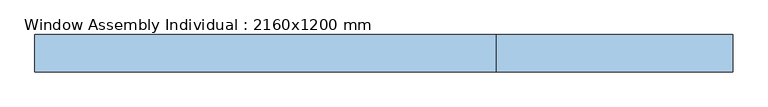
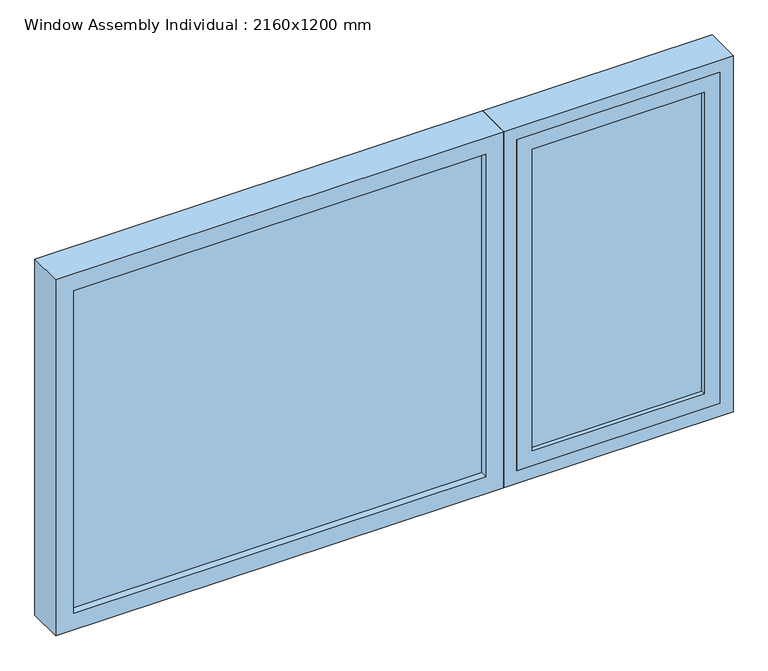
"""IFC4 building model written with IfcOpenShell, lengths in millimetres: window geometry, Window Assembly Individual : 2160x1200 mm."""

import ifcopenshell
import ifcopenshell.guid

model = None  # the IFC model being written
_history = None  # IfcOwnerHistory: only IFC2X3 demands one
_inside = {}  # id of a spatial element -> (the spatial element, [elements in it])
_under = {}  # id of a project, library or spatial element -> (it, [spatial elements below it])
_declared = {}  # id of a project -> (the project, [libraries it declares])
_typed = {}  # id of a type object -> (the type object, [elements of that type])
_made_of = {}  # id of a material, layer set ... -> (it, [elements and type objects made of it])


def new_model(schema):
    """Start an empty IFC model of exactly this schema.

    Asked for "IFC4X3", IfcOpenShell would pick the latest addendum, in which some entities
    have other attributes; the version numbers below select the first issue.
    IFC2X3 requires an IfcOwnerHistory on every rooted entity: one is made here for all.
    """
    global model, _history
    if schema == "IFC4X3":
        model = ifcopenshell.file(schema_version=(4, 3, 0, 0))
    else:
        model = ifcopenshell.file(schema=schema)
    _inside.clear()
    _under.clear()
    _declared.clear()
    _typed.clear()
    _made_of.clear()
    _history = None
    if model.schema == "IFC2X3":
        org = make("IfcOrganization", Name="unknown")
        user = make(
            "IfcPersonAndOrganization",
            ThePerson=make("IfcPerson", FamilyName="unknown"),
            TheOrganization=org,
        )
        app = make(
            "IfcApplication",
            ApplicationDeveloper=org,
            Version="unknown",
            ApplicationFullName="unknown",
            ApplicationIdentifier="unknown",
        )
        _history = make(
            "IfcOwnerHistory",
            OwningUser=user,
            OwningApplication=app,
            ChangeAction="ADDED",
            CreationDate=0,
        )
    return model


def make(cls, **values):
    """One entity of the class cls with the attributes given. An attribute that is None is left unset."""
    return model.create_entity(
        cls, **{name: value for name, value in values.items() if value is not None}
    )


def rooted(cls, **values):
    """An entity with a GlobalId (a new one), such as an element, a storey or a relation."""
    return make(cls, GlobalId=ifcopenshell.guid.new(), OwnerHistory=_history, **values)


def si_unit(unit_type, name, prefix=None):
    """IfcSIUnit, for example si_unit("LENGTHUNIT", "METRE", prefix="MILLI")."""
    return make("IfcSIUnit", UnitType=unit_type, Prefix=prefix, Name=name)


def assignment(units):
    """IfcUnitAssignment: the units of a project."""
    return None if units is None else make("IfcUnitAssignment", Units=units)


def point(xyz):
    """IfcCartesianPoint."""
    return None if xyz is None else make("IfcCartesianPoint", Coordinates=xyz)


def direction(xyz):
    """IfcDirection."""
    return None if xyz is None else make("IfcDirection", DirectionRatios=xyz)


def frame(location, z_axis=None, x_axis=None):
    """IfcAxis2Placement3D, a coordinate frame: its origin and axes. An axis left out is left unset."""
    return make(
        "IfcAxis2Placement3D",
        Location=point(location),
        Axis=direction(z_axis),
        RefDirection=direction(x_axis),
    )


def origin():
    """The frame at (0, 0, 0) with its axes left unset."""
    return frame((0.0, 0.0, 0.0))


def place(relative_to, where):
    """IfcLocalPlacement: puts the frame where relative to a parent placement (None: the world)."""
    return make(
        "IfcLocalPlacement", PlacementRelTo=relative_to, RelativePlacement=where
    )


def context(
    kind, dimensions, precision=None, world=None, true_north=None, identifier=None
):
    """IfcGeometricRepresentationContext, for example the 3D "Model" context."""
    return make(
        "IfcGeometricRepresentationContext",
        ContextIdentifier=identifier,
        ContextType=kind,
        CoordinateSpaceDimension=dimensions,
        Precision=precision,
        WorldCoordinateSystem=world,
        TrueNorth=true_north,
    )


def project(units=None, contexts=None):
    """IfcProject with its units and contexts."""
    return rooted(
        "IfcProject",
        Name="project",
        RepresentationContexts=contexts,
        UnitsInContext=assignment(units),
    )


def spatial(cls, under=None, at=None, **own):
    """A site, building, storey or space (cls), placed at a placement, below another one or the project."""
    s = rooted(cls, ObjectPlacement=at, **own)
    if under is not None:
        _under.setdefault(under.id(), (under, []))[1].append(s)
    return s


def polyline(points):
    """IfcPolyline through the points."""
    return make("IfcPolyline", Points=[point(p) for p in points])


def outline(outer, holes=None, kind="AREA"):
    """IfcArbitraryClosedProfileDef: a profile drawn as a closed curve; with holes, ...WithVoids."""
    if holes is None:
        return make("IfcArbitraryClosedProfileDef", ProfileType=kind, OuterCurve=outer)
    return make(
        "IfcArbitraryProfileDefWithVoids",
        ProfileType=kind,
        OuterCurve=outer,
        InnerCurves=holes,
    )


def extrude(swept, where, along, depth):
    """IfcExtrudedAreaSolid: the profile swept, set in the frame where, extruded along a direction by depth."""
    return make(
        "IfcExtrudedAreaSolid",
        SweptArea=swept,
        Position=where,
        ExtrudedDirection=direction(along),
        Depth=depth,
    )


def faces_of(points, faces, orient=None, outer=None):
    """IfcFace entities. A face is a list of loops; a loop is a list of indices into points, from 0.

    orient and outer hold one flag for each loop. By default every Orientation is true, the
    first loop of a face is its IfcFaceOuterBound and the others are IfcFaceBound.
    """
    made = []
    for i, loops in enumerate(faces):
        bounds = []
        for j, loop in enumerate(loops):
            is_outer = j == 0 if outer is None else outer[i][j]
            bounds.append(
                make(
                    "IfcFaceOuterBound" if is_outer else "IfcFaceBound",
                    Bound=make("IfcPolyLoop", Polygon=[points[k] for k in loop]),
                    Orientation=True if orient is None else orient[i][j],
                )
            )
        made.append(make("IfcFace", Bounds=bounds))
    return made


def faceted_brep(points, faces, orient=None, outer=None, voids=None):
    """IfcFacetedBrep: a solid bounded by flat faces; with voids (closed shells), ...WithVoids."""
    shared = [point(p) for p in points]
    hull = make("IfcClosedShell", CfsFaces=faces_of(shared, faces, orient, outer))
    if voids is None:
        return make("IfcFacetedBrep", Outer=hull)
    return make(
        "IfcFacetedBrepWithVoids",
        Outer=hull,
        Voids=[
            make(cls, CfsFaces=faces_of(shared, fs, o, b)) for cls, fs, o, b in voids
        ],
    )


def shape(context_of_items, identifier, shape_type, items):
    """IfcShapeRepresentation: the items that make up one representation, for example the "Body"."""
    return make(
        "IfcShapeRepresentation",
        ContextOfItems=context_of_items,
        RepresentationIdentifier=identifier,
        RepresentationType=shape_type,
        Items=items,
    )


def source(mapping_origin, context_of_items, identifier, shape_type, items):
    """IfcRepresentationMap: a shape defined once, which mapped items show again and again."""
    return make(
        "IfcRepresentationMap",
        MappingOrigin=mapping_origin,
        MappedRepresentation=shape(context_of_items, identifier, shape_type, items),
    )


def transform(
    local_origin,
    x_axis=None,
    y_axis=None,
    z_axis=None,
    scale=None,
    scale2=None,
    scale3=None,
    uniform=True,
):
    """IfcCartesianTransformationOperator3D, or its non-uniform kind. x_axis, y_axis, z_axis: its Axis1, 2, 3."""
    if uniform:
        return make(
            "IfcCartesianTransformationOperator3D",
            Axis1=direction(x_axis),
            Axis2=direction(y_axis),
            LocalOrigin=point(local_origin),
            Scale=scale,
            Axis3=direction(z_axis),
        )
    return make(
        "IfcCartesianTransformationOperator3DnonUniform",
        Axis1=direction(x_axis),
        Axis2=direction(y_axis),
        LocalOrigin=point(local_origin),
        Scale=scale,
        Axis3=direction(z_axis),
        Scale2=scale2,
        Scale3=scale3,
    )


def mapped(mapping_source, mapping_target):
    """IfcMappedItem: shows the shape of a source again, moved by a transform."""
    return make(
        "IfcMappedItem", MappingSource=mapping_source, MappingTarget=mapping_target
    )


def made_of(thing, what):
    """Note that an element or type object is made of a material, layer set ...; save() writes the relation."""
    if what is not None:
        _made_of.setdefault(what.id(), (what, []))[1].append(thing)
    return thing


def element(
    cls,
    number,
    at=None,
    inside=None,
    cuts=None,
    type_object=None,
    material=None,
    context=None,
    identifier="Body",
    shape_type=None,
    held_by="IfcProductDefinitionShape",
    body=None,
    shapes=None,
    **own,
):
    """One element of the class cls, such as IfcWall. Its Tag is "e" and its number.

    at: its placement. inside: the storey or other place that contains it. cuts: it is an
    opening in that element (IfcRelVoidsElement). A single representation is given by context,
    identifier, shape_type and body (its items); several are given by shapes. held_by: the class
    of the entity that holds the representations. save() writes the other relations.
    """
    e = rooted(cls, Tag="e%d" % number, ObjectPlacement=at, **own)
    if body is not None:
        shapes = [shape(context, identifier, shape_type, body)]
    if shapes is not None:
        e.Representation = make(held_by, Representations=shapes)
    if inside is not None:
        _inside.setdefault(inside.id(), (inside, []))[1].append(e)
    if cuts is not None:
        rooted(
            "IfcRelVoidsElement", RelatingBuildingElement=cuts, RelatedOpeningElement=e
        )
    if type_object is not None:
        _typed.setdefault(type_object.id(), (type_object, []))[1].append(e)
    return made_of(e, material)


def aggregate(whole, parts):
    """IfcRelAggregates: a whole, such as a stair, and the parts it consists of."""
    return rooted("IfcRelAggregates", RelatingObject=whole, RelatedObjects=parts)


def save(model, path):
    """Write the relations noted so far, then the file.

    IfcRelAggregates (storeys below a building ...), IfcRelContainedInSpatialStructure (elements
    in a storey), IfcRelDefinesByType, IfcRelAssociatesMaterial and IfcRelDeclares: one each for
    every whole, place, type object, material and project.
    """
    for whole, parts in _under.values():
        aggregate(whole, parts)
    for where, things in _inside.values():
        rooted(
            "IfcRelContainedInSpatialStructure",
            RelatedElements=things,
            RelatingStructure=where,
        )
    for kind, things in _typed.values():
        rooted("IfcRelDefinesByType", RelatedObjects=things, RelatingType=kind)
    for what, things in _made_of.values():
        rooted("IfcRelAssociatesMaterial", RelatedObjects=things, RelatingMaterial=what)
    for by, libraries in _declared.values():
        rooted("IfcRelDeclares", RelatingContext=by, RelatedDefinitions=libraries)
    model.write(path)


def window_assembly_individual_2160x1200_mm_f898fd7d(model_context):
    return source(origin(), model_context, "Body", "SolidModel", [
        extrude(outline(polyline([(2000.0, 348.0), (2000.0, -1080.0), (800.0, -1080.0), (800.0, 348.0), (2000.0, 348.0)]), holes=[polyline([(1943.0, -1023.0), (1943.0, 291.0), (857.0, 291.0), (857.0, -1023.0), (1943.0, -1023.0)])]), frame((0.0, -150.0, 0.0), z_axis=(0.0, 1.0, 0.0), x_axis=(0.0, 0.0, 1.0)), (0.0, 0.0, 1.0), 115.0),
        extrude(outline(polyline([(291.0, -100.0), (291.0, -128.0), (-1023.0, -128.0), (-1023.0, -100.0), (291.0, -100.0)])), frame((0.0, 0.0, 857.0), z_axis=(0.0, 0.0, 1.0), x_axis=(1.0, 0.0, 0.0)), (0.0, 0.0, 1.0), 1086.0),
        extrude(outline(polyline([(1958.0, 1038.0), (1958.0, 390.0), (842.0, 390.0), (842.0, 1038.0), (1958.0, 1038.0)]), holes=[polyline([(1908.0, 440.0), (1908.0, 988.0), (892.0, 988.0), (892.0, 440.0), (1908.0, 440.0)])]), frame((0.0, -150.0, 0.0), z_axis=(0.0, 1.0, 0.0), x_axis=(0.0, 0.0, 1.0)), (0.0, 0.0, 1.0), 50.0),
        faceted_brep([(348.0, -35.0, 2000.0), (348.0, -35.0, 800.0), (348.0, -150.0, 800.0), (348.0, -150.0, 2000.0), (1080.0, -150.0, 2000.0), (1080.0, -150.0, 800.0), (390.0, -150.0, 1958.0), (1038.0, -150.0, 1958.0), (1038.0, -150.0, 842.0), (390.0, -150.0, 842.0), (1080.0, -35.0, 800.0), (1080.0, -35.0, 2000.0), (1023.0, -35.0, 1943.0), (405.0, -35.0, 1943.0), (405.0, -35.0, 857.0), (1023.0, -35.0, 857.0), (405.0, -100.0, 1943.0), (405.0, -100.0, 857.0), (1023.0, -100.0, 857.0), (1038.0, -100.0, 1958.0), (390.0, -100.0, 1958.0), (390.0, -100.0, 842.0), (1038.0, -100.0, 842.0), (1023.0, -100.0, 1943.0)], [[[0, 1, 2, 3]], [[4, 3, 2, 5], [6, 7, 8, 9]], [[1, 10, 5, 2]], [[0, 11, 10, 1], [12, 13, 14, 15]], [[16, 17, 14, 13]], [[17, 18, 15, 14]], [[19, 20, 21, 22], [16, 23, 18, 17]], [[6, 9, 21, 20]], [[9, 8, 22, 21]], [[10, 11, 4, 5]], [[18, 23, 12, 15]], [[8, 7, 19, 22]], [[11, 0, 3, 4]], [[23, 16, 13, 12]], [[7, 6, 20, 19]]]),
        extrude(outline(polyline([(988.0, -114.0), (988.0, -136.0), (440.0, -136.0), (440.0, -114.0), (988.0, -114.0)])), frame((0.0, 0.0, 892.0), z_axis=(0.0, 0.0, 1.0), x_axis=(1.0, 0.0, 0.0)), (0.0, 0.0, 1.0), 1016.0),
    ])


if __name__ == "__main__":
    model = new_model("IFC4")
    model_context = context("Model", 3, world=origin())
    ifc_project = project(units=[si_unit("LENGTHUNIT", "METRE", prefix="MILLI")], contexts=[model_context])
    site = spatial("IfcSite", under=ifc_project)
    building = spatial("IfcBuilding", under=site)
    placement = place(None, origin())
    window_assembly_individual_2160x1200_mm_shape = window_assembly_individual_2160x1200_mm_f898fd7d(model_context)
    element("IfcWindow", 1, ObjectType="Window Assembly Individual : 2160x1200 mm", at=placement, inside=building, context=model_context, shape_type="MappedRepresentation", body=[
        mapped(window_assembly_individual_2160x1200_mm_shape, transform((0.0, 0.0, 0.0), x_axis=(1.0, 0.0, 0.0), y_axis=(0.0, 1.0, 0.0), z_axis=(0.0, 0.0, 1.0))),
    ])
    save(model, "model.ifc")
